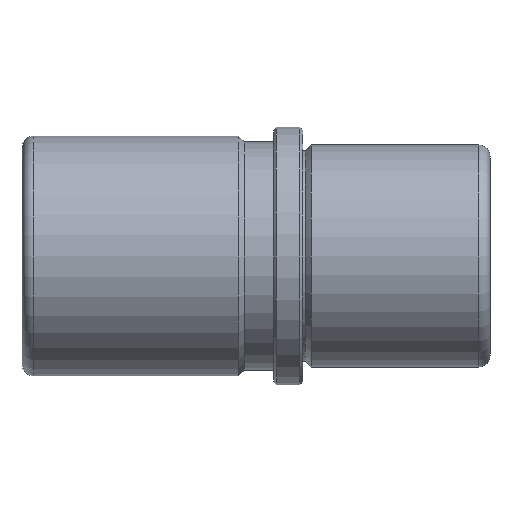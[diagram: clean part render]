
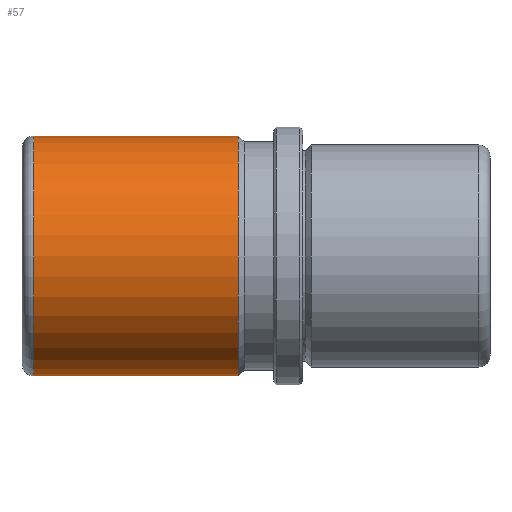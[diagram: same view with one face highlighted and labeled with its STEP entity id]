
A CAD part, front view. The second image highlights one B-rep face of the part: STEP entity #57.
In plain terms, the highlighted cylindrical face has radius 20.5 mm (diameter 41 mm), a full revolution.
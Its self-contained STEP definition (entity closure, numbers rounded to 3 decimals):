
#57 = ADVANCED_FACE( '', ( #129, #130, #131 ), #132, .T. );
#129 = FACE_OUTER_BOUND( '', #222, .T. );
#130 = FACE_BOUND( '', #223, .T. );
#131 = FACE_OUTER_BOUND( '', #224, .T. );
#132 = CYLINDRICAL_SURFACE( '', #225, 20.5 );
#222 = EDGE_LOOP( '', ( #321 ) );
#223 = EDGE_LOOP( '', ( #322 ) );
#224 = EDGE_LOOP( '', ( #323 ) );
#225 = AXIS2_PLACEMENT_3D( '', #324, #325, #326 );
#321 = ORIENTED_EDGE( '', *, *, #428, .T. );
#322 = ORIENTED_EDGE( '', *, *, #416, .T. );
#323 = ORIENTED_EDGE( '', *, *, #429, .F. );
#324 = CARTESIAN_POINT( '', ( 32., 0., 0. ) );
#325 = DIRECTION( '', ( -1., 0., 0. ) );
#326 = DIRECTION( '', ( 0., 0., -1. ) );
#416 = EDGE_CURVE( '', #462, #462, #463, .T. );
#428 = EDGE_CURVE( '', #481, #481, #482, .T. );
#429 = EDGE_CURVE( '', #483, #483, #484, .T. );
#462 = VERTEX_POINT( '', #590 );
#463 = B_SPLINE_CURVE_WITH_KNOTS( '', 3, ( #591, #592, #593, #594, #595, #596, #597, #598, #599, #600, #601, #602, #603, #604, #605, #606, #607, #608, #609, #610, #611, #612, #613, #614, #615, #616, #617, #618, #619, #620, #621, #622, #623, #624, #625, #626, #627, #628, #629, #630, #631, #632, #633, #634, #635, #636, #637, #638, #639, #640, #641, #642, #643, #644, #645, #646, #647, #648, #649, #650, #651, #652, #653, #654, #655, #656 ), .UNSPECIFIED., .T., .F., ( 2, 2, 2, 2, 2, 2, 2, 2, 2, 2, 2, 2, 2, 2, 2, 2, 2, 2, 2, 2, 2, 2, 2, 2, 2, 2, 2, 2, 2, 2, 2, 2, 2, 2, 2 ), ( -0.001, 0., 0.001, 0.002, 0.002, 0.003, 0.004, 0.005, 0.006, 0.007, 0.007, 0.008, 0.009, 0.01, 0.011, 0.011, 0.012, 0.013, 0.014, 0.015, 0.016, 0.016, 0.017, 0.018, 0.019, 0.02, 0.021, 0.021, 0.022, 0.023, 0.024, 0.025, 0.025, 0.026, 0.027 ), .UNSPECIFIED. );
#481 = VERTEX_POINT( '', #674 );
#482 = CIRCLE( '', #675, 20.5 );
#483 = VERTEX_POINT( '', #676 );
#484 = CIRCLE( '', #677, 20.5 );
#590 = CARTESIAN_POINT( '', ( -18., 20.068, -4.188 ) );
#591 = CARTESIAN_POINT( '', ( -18.277, 20.068, -4.188 ) );
#592 = CARTESIAN_POINT( '', ( -17.723, 20.068, -4.188 ) );
#593 = CARTESIAN_POINT( '', ( -17.45, 20.073, -4.161 ) );
#594 = CARTESIAN_POINT( '', ( -16.914, 20.095, -4.054 ) );
#595 = CARTESIAN_POINT( '', ( -16.647, 20.112, -3.973 ) );
#596 = CARTESIAN_POINT( '', ( -16.14, 20.152, -3.763 ) );
#597 = CARTESIAN_POINT( '', ( -15.9, 20.176, -3.634 ) );
#598 = CARTESIAN_POINT( '', ( -15.446, 20.228, -3.33 ) );
#599 = CARTESIAN_POINT( '', ( -15.231, 20.257, -3.154 ) );
#600 = CARTESIAN_POINT( '', ( -14.846, 20.313, -2.768 ) );
#601 = CARTESIAN_POINT( '', ( -14.673, 20.341, -2.558 ) );
#602 = CARTESIAN_POINT( '', ( -14.366, 20.393, -2.101 ) );
#603 = CARTESIAN_POINT( '', ( -14.237, 20.417, -1.858 ) );
#604 = CARTESIAN_POINT( '', ( -14.028, 20.457, -1.354 ) );
#605 = CARTESIAN_POINT( '', ( -13.947, 20.473, -1.09 ) );
#606 = CARTESIAN_POINT( '', ( -13.839, 20.494, -0.549 ) );
#607 = CARTESIAN_POINT( '', ( -13.812, 20.5, -0.276 ) );
#608 = CARTESIAN_POINT( '', ( -13.812, 20.5, 0.271 ) );
#609 = CARTESIAN_POINT( '', ( -13.839, 20.494, 0.55 ) );
#610 = CARTESIAN_POINT( '', ( -13.946, 20.473, 1.087 ) );
#611 = CARTESIAN_POINT( '', ( -14.026, 20.457, 1.349 ) );
#612 = CARTESIAN_POINT( '', ( -14.236, 20.417, 1.857 ) );
#613 = CARTESIAN_POINT( '', ( -14.367, 20.393, 2.101 ) );
#614 = CARTESIAN_POINT( '', ( -14.67, 20.342, 2.554 ) );
#615 = CARTESIAN_POINT( '', ( -14.844, 20.313, 2.766 ) );
#616 = CARTESIAN_POINT( '', ( -15.233, 20.257, 3.155 ) );
#617 = CARTESIAN_POINT( '', ( -15.443, 20.229, 3.328 ) );
#618 = CARTESIAN_POINT( '', ( -15.896, 20.176, 3.631 ) );
#619 = CARTESIAN_POINT( '', ( -16.141, 20.152, 3.763 ) );
#620 = CARTESIAN_POINT( '', ( -16.647, 20.112, 3.973 ) );
#621 = CARTESIAN_POINT( '', ( -16.908, 20.096, 4.053 ) );
#622 = CARTESIAN_POINT( '', ( -17.447, 20.073, 4.16 ) );
#623 = CARTESIAN_POINT( '', ( -17.725, 20.068, 4.188 ) );
#624 = CARTESIAN_POINT( '', ( -18.272, 20.068, 4.188 ) );
#625 = CARTESIAN_POINT( '', ( -18.545, 20.073, 4.162 ) );
#626 = CARTESIAN_POINT( '', ( -19.087, 20.095, 4.054 ) );
#627 = CARTESIAN_POINT( '', ( -19.35, 20.111, 3.974 ) );
#628 = CARTESIAN_POINT( '', ( -19.855, 20.152, 3.765 ) );
#629 = CARTESIAN_POINT( '', ( -20.099, 20.176, 3.634 ) );
#630 = CARTESIAN_POINT( '', ( -20.555, 20.228, 3.33 ) );
#631 = CARTESIAN_POINT( '', ( -20.766, 20.256, 3.157 ) );
#632 = CARTESIAN_POINT( '', ( -21.152, 20.313, 2.771 ) );
#633 = CARTESIAN_POINT( '', ( -21.329, 20.341, 2.556 ) );
#634 = CARTESIAN_POINT( '', ( -21.632, 20.393, 2.103 ) );
#635 = CARTESIAN_POINT( '', ( -21.761, 20.417, 1.863 ) );
#636 = CARTESIAN_POINT( '', ( -21.972, 20.457, 1.355 ) );
#637 = CARTESIAN_POINT( '', ( -22.053, 20.473, 1.09 ) );
#638 = CARTESIAN_POINT( '', ( -22.16, 20.494, 0.554 ) );
#639 = CARTESIAN_POINT( '', ( -22.188, 20.5, 0.279 ) );
#640 = CARTESIAN_POINT( '', ( -22.188, 20.5, -0.274 ) );
#641 = CARTESIAN_POINT( '', ( -22.161, 20.494, -0.546 ) );
#642 = CARTESIAN_POINT( '', ( -22.055, 20.473, -1.083 ) );
#643 = CARTESIAN_POINT( '', ( -21.974, 20.457, -1.35 ) );
#644 = CARTESIAN_POINT( '', ( -21.764, 20.417, -1.856 ) );
#645 = CARTESIAN_POINT( '', ( -21.636, 20.394, -2.097 ) );
#646 = CARTESIAN_POINT( '', ( -21.331, 20.342, -2.553 ) );
#647 = CARTESIAN_POINT( '', ( -21.156, 20.313, -2.767 ) );
#648 = CARTESIAN_POINT( '', ( -20.771, 20.257, -3.152 ) );
#649 = CARTESIAN_POINT( '', ( -20.56, 20.229, -3.326 ) );
#650 = CARTESIAN_POINT( '', ( -20.102, 20.176, -3.633 ) );
#651 = CARTESIAN_POINT( '', ( -19.861, 20.152, -3.762 ) );
#652 = CARTESIAN_POINT( '', ( -19.358, 20.112, -3.971 ) );
#653 = CARTESIAN_POINT( '', ( -19.092, 20.096, -4.053 ) );
#654 = CARTESIAN_POINT( '', ( -18.551, 20.073, -4.161 ) );
#655 = CARTESIAN_POINT( '', ( -18.277, 20.068, -4.188 ) );
#656 = CARTESIAN_POINT( '', ( -17.723, 20.068, -4.188 ) );
#674 = CARTESIAN_POINT( '', ( -46., 0., -20.5 ) );
#675 = AXIS2_PLACEMENT_3D( '', #736, #737, #738 );
#676 = CARTESIAN_POINT( '', ( -11., 0., -20.5 ) );
#677 = AXIS2_PLACEMENT_3D( '', #739, #740, #741 );
#736 = CARTESIAN_POINT( '', ( -46., 0., 0. ) );
#737 = DIRECTION( '', ( 1., 0., 0. ) );
#738 = DIRECTION( '', ( 0., 0., -1. ) );
#739 = CARTESIAN_POINT( '', ( -11., 0., 0. ) );
#740 = DIRECTION( '', ( 1., 0., 0. ) );
#741 = DIRECTION( '', ( 0., 0., -1. ) );
